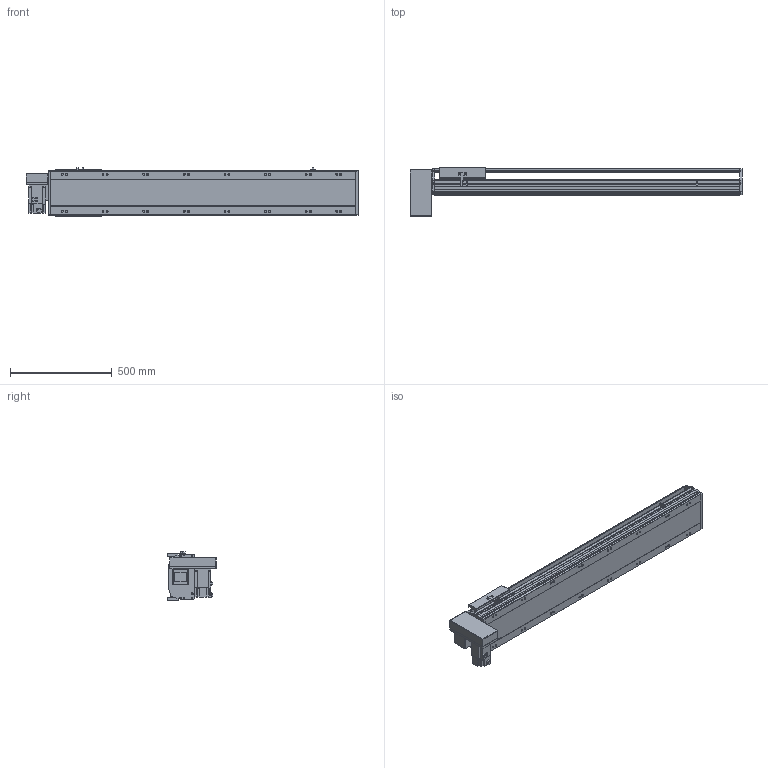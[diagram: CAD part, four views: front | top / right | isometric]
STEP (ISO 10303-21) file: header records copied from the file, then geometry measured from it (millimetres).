
FILE_DESCRIPTION(/* description */ ('STEP AP214'),/* implementation_level */ '2;1');
FILE_NAME(/* name */ 'PBS220-P40-S1150-RD-T75-C1-N(0)',/* time_stamp */ '2022-06-13T02:41:58+02:00',/* author */ ('License CC BY-ND 4.0'),/* organization */ ('CADENAS'),/* preprocessor_version */ 'ST-DEVELOPER v18.102',/* originating_system */ 'PARTsolutions',/* authorisation */ ' ');
FILE_SCHEMA (('AUTOMOTIVE_DESIGN {1 0 10303 214 3 1 1}'));
Length unit declared in the file: millimetre
Products named in the file (7): PBS220-P40-S1150-RD-T75-C1-N(0); PBS220_sensor; PBS220_plant; PBS220_sliser; T75-p1; PBS220T-RD_motors; PBS220-S1150()_body
Assembly tree (8 placements, depth 2):
  PBS220-P40-S1150-RD-T75-C1-N(0)
    PBS220_sensor  x3
    PBS220_plant
    PBS220_sliser
    T75-p1
    PBS220T-RD_motors
    PBS220-S1150()_body
Bounding box: 1634 x 239 x 238.5 mm (x, y, z)
Volume: 23479021.7 mm3; surface area: 2271726.7 mm2
Topology: 8 solids, 8 shells, 914 faces, 2396 edges, 1558 vertices
Faces by surface type: plane 598, cylinder 276, cone 40
Full cylindrical faces by diameter (mm): 2.013 x4, 4.5 x14, 4.917 x4, 6 x7, 6.647 x8, 8 x10, 8.376 x16, 8.5 x16, 10 x6, 14 x16, 38 x2, 40 x1, 70 x1
Entity records: 25629 total; most frequent: CARTESIAN_POINT 4492, DIRECTION 4455, ORIENTED_EDGE 4106, EDGE_CURVE 2053, AXIS2_PLACEMENT_3D 1555, VERTEX_POINT 1416, LINE 1345, VECTOR 1345
